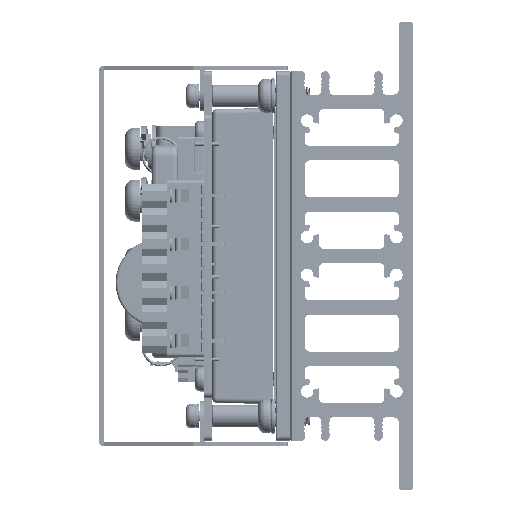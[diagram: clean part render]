
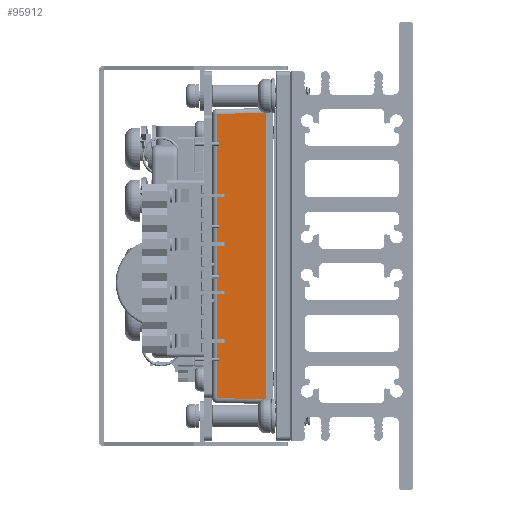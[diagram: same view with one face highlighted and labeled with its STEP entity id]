
A CAD part, left-side view. The second image highlights one B-rep face of the part: STEP entity #95912.
In plain terms, the highlighted planar face has unit normal (-1, 0.018, 0).
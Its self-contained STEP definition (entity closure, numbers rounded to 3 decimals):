
#5652 = VERTEX_POINT ( 'NONE', #212906 ) ;
#7642 = CARTESIAN_POINT ( 'NONE',  ( -6.117, 18.117, -30.306 ) ) ;
#12599 = ORIENTED_EDGE ( 'NONE', *, *, #90075, .T. ) ;
#15033 = EDGE_CURVE ( 'NONE', #186333, #145435, #69810, .T. ) ;
#54981 = CARTESIAN_POINT ( 'NONE',  ( -6.117, 18.117, 29.324 ) ) ;
#58589 = CARTESIAN_POINT ( 'NONE',  ( -6.294, 7.983, 29.5 ) ) ;
#59097 = ORIENTED_EDGE ( 'NONE', *, *, #59442, .T. ) ;
#59442 = EDGE_CURVE ( 'NONE', #145435, #244791, #60964, .T. ) ;
#60964 = LINE ( 'NONE', #121875, #251200 ) ;
#62737 = CIRCLE ( 'NONE', #210767, 1. ) ;
#69810 = LINE ( 'NONE', #7642, #170405 ) ;
#73648 = DIRECTION ( 'NONE',  ( -1., 0.017, 0. ) ) ;
#75731 = LINE ( 'NONE', #156483, #88580 ) ;
#78445 = LINE ( 'NONE', #58589, #201193 ) ;
#81070 = DIRECTION ( 'NONE',  ( 0., 0., 1. ) ) ;
#83800 = AXIS2_PLACEMENT_3D ( 'NONE', #175602, #73648, #96142 ) ;
#88255 = CARTESIAN_POINT ( 'NONE',  ( -6.294, 8., -29.5 ) ) ;
#88580 = VECTOR ( 'NONE', #152571, 1000. ) ;
#90075 = EDGE_CURVE ( 'NONE', #5652, #186333, #78445, .T. ) ;
#95912 = ADVANCED_FACE ( 'NONE', ( #156986 ), #237827, .T. ) ;
#96142 = DIRECTION ( 'NONE',  ( 0.017, 1., 0. ) ) ;
#121875 = CARTESIAN_POINT ( 'NONE',  ( -6.276, 9.047, -29.482 ) ) ;
#134048 = ORIENTED_EDGE ( 'NONE', *, *, #203332, .T. ) ;
#140396 = DIRECTION ( 'NONE',  ( -0.017, -1., -0.017 ) ) ;
#145435 = VERTEX_POINT ( 'NONE', #226446 ) ;
#152571 = DIRECTION ( 'NONE',  ( 0., 0., 1. ) ) ;
#156483 = CARTESIAN_POINT ( 'NONE',  ( -6.294, 8., 30.5 ) ) ;
#156986 = FACE_OUTER_BOUND ( 'NONE', #224610, .T. ) ;
#159975 = EDGE_CURVE ( 'NONE', #244791, #185643, #75731, .T. ) ;
#170405 = VECTOR ( 'NONE', #234021, 1000. ) ;
#175602 = CARTESIAN_POINT ( 'NONE',  ( -6.294, 8., 30.5 ) ) ;
#177798 = CARTESIAN_POINT ( 'NONE',  ( -5.294, 8., 29.5 ) ) ;
#185643 = VERTEX_POINT ( 'NONE', #206081 ) ;
#186333 = VERTEX_POINT ( 'NONE', #54981 ) ;
#188530 = ORIENTED_EDGE ( 'NONE', *, *, #159975, .T. ) ;
#201193 = VECTOR ( 'NONE', #214960, 1000. ) ;
#203332 = EDGE_CURVE ( 'NONE', #185643, #5652, #62737, .T. ) ;
#206081 = CARTESIAN_POINT ( 'NONE',  ( -6.294, 8., 29.5 ) ) ;
#210579 = ORIENTED_EDGE ( 'NONE', *, *, #15033, .T. ) ;
#210767 = AXIS2_PLACEMENT_3D ( 'NONE', #177798, #258637, #81070 ) ;
#212906 = CARTESIAN_POINT ( 'NONE',  ( -6.294, 8., 29.5 ) ) ;
#214960 = DIRECTION ( 'NONE',  ( 0.017, 1., -0.017 ) ) ;
#224610 = EDGE_LOOP ( 'NONE', ( #188530, #134048, #12599, #210579, #59097 ) ) ;
#226446 = CARTESIAN_POINT ( 'NONE',  ( -6.117, 18.117, -29.324 ) ) ;
#234021 = DIRECTION ( 'NONE',  ( 0., 0., -1. ) ) ;
#237827 = PLANE ( 'NONE',  #83800 ) ;
#244791 = VERTEX_POINT ( 'NONE', #88255 ) ;
#251200 = VECTOR ( 'NONE', #140396, 1000. ) ;
#258637 = DIRECTION ( 'NONE',  ( 0., 1., 0. ) ) ;
